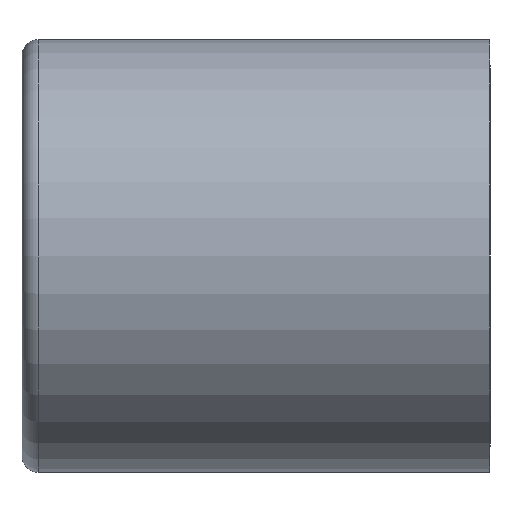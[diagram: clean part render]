
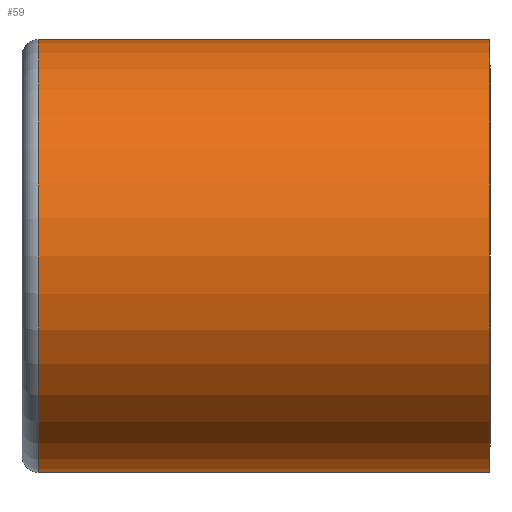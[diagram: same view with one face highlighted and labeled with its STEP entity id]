
A CAD part, front view. The second image highlights one B-rep face of the part: STEP entity #59.
In plain terms, the highlighted cylindrical face has radius 18.5 mm (diameter 37 mm), a partial arc.
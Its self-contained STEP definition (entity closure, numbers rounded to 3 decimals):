
#31 = VERTEX_POINT ( 'NONE', #1203 ) ;
#32 = VERTEX_POINT ( 'NONE', #1204 ) ;
#33 = VERTEX_POINT ( 'NONE', #1205 ) ;
#34 = VERTEX_POINT ( 'NONE', #1206 ) ;
#47 = EDGE_CURVE ( 'NONE', #31, #32, #1226, .T. ) ;
#50 = EDGE_CURVE ( 'NONE', #34, #33, #1235, .T. ) ;
#59 = ADVANCED_FACE ( 'NONE', ( #1285 ), #1289, .T. ) ;
#109 = EDGE_CURVE ( 'NONE', #31, #34, #418, .T. ) ;
#118 = EDGE_CURVE ( 'NONE', #33, #32, #424, .T. ) ;
#418 = CIRCLE ( 'NONE', #1615, 18.5 ) ;
#424 = CIRCLE ( 'NONE', #1697, 18.5 ) ;
#501 = EDGE_LOOP ( 'NONE', ( #663, #664, #665, #662 ) ) ;
#662 = ORIENTED_EDGE ( 'NONE', *, *, #118, .T. ) ;
#663 = ORIENTED_EDGE ( 'NONE', *, *, #47, .F. ) ;
#664 = ORIENTED_EDGE ( 'NONE', *, *, #109, .T. ) ;
#665 = ORIENTED_EDGE ( 'NONE', *, *, #50, .T. ) ;
#1203 = CARTESIAN_POINT ( 'NONE',  ( 40., 0., -18.5 ) ) ;
#1204 = CARTESIAN_POINT ( 'NONE',  ( 1.4, 0., -18.5 ) ) ;
#1205 = CARTESIAN_POINT ( 'NONE',  ( 1.4, 0., 18.5 ) ) ;
#1206 = CARTESIAN_POINT ( 'NONE',  ( 40., 0., 18.5 ) ) ;
#1226 = LINE ( 'NONE', #1227, #1267 ) ;
#1227 = CARTESIAN_POINT ( 'NONE',  ( 0., 0., -18.5 ) ) ;
#1228 = DIRECTION ( 'NONE',  ( -1., 0., 0. ) ) ;
#1235 = LINE ( 'NONE', #1236, #1271 ) ;
#1236 = CARTESIAN_POINT ( 'NONE',  ( 0., 0., 18.5 ) ) ;
#1237 = DIRECTION ( 'NONE',  ( -1., 0., 0. ) ) ;
#1267 = VECTOR ( 'NONE', #1228, 1000. ) ;
#1271 = VECTOR ( 'NONE', #1237, 1000. ) ;
#1285 = FACE_OUTER_BOUND ( 'NONE', #501, .T. ) ;
#1288 = AXIS2_PLACEMENT_3D ( 'NONE', #1301, #1302, #1303 ) ;
#1289 = CYLINDRICAL_SURFACE ( 'NONE', #1288, 18.5 ) ;
#1301 = CARTESIAN_POINT ( 'NONE',  ( 0., 0., 0. ) ) ;
#1302 = DIRECTION ( 'NONE',  ( -1., 0., 0. ) ) ;
#1303 = DIRECTION ( 'NONE',  ( 0., 0., 1. ) ) ;
#1577 = CARTESIAN_POINT ( 'NONE',  ( 40., 0., 0. ) ) ;
#1584 = DIRECTION ( 'NONE',  ( -1., 0., 0. ) ) ;
#1585 = DIRECTION ( 'NONE',  ( 0., 0., 1. ) ) ;
#1615 = AXIS2_PLACEMENT_3D ( 'NONE', #1577, #1584, #1585 ) ;
#1635 = CARTESIAN_POINT ( 'NONE',  ( 1.4, 0., 0. ) ) ;
#1636 = DIRECTION ( 'NONE',  ( 1., 0., 0. ) ) ;
#1637 = DIRECTION ( 'NONE',  ( 0., 0., -1. ) ) ;
#1697 = AXIS2_PLACEMENT_3D ( 'NONE', #1635, #1636, #1637 ) ;
